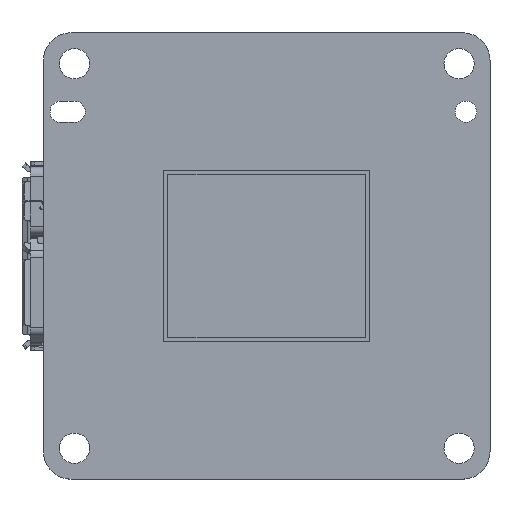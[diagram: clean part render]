
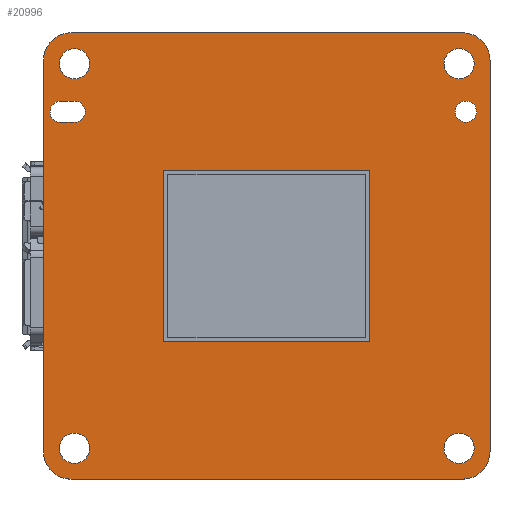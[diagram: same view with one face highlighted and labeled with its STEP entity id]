
A CAD part, top view. The second image highlights one B-rep face of the part: STEP entity #20996.
In plain terms, the highlighted planar face has unit normal (0, 0, 1).
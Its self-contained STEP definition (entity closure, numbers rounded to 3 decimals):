
#500=DIRECTION('',(-1.,0.,0.));
#501=VECTOR('',#500,28.5);
#502=CARTESIAN_POINT('',(36.596,32.5,1.6));
#503=LINE('',#502,#501);
#516=DIRECTION('',(0.,1.,0.));
#517=VECTOR('',#516,28.5);
#518=CARTESIAN_POINT('',(38.596,2.,1.6));
#519=LINE('',#518,#517);
#532=DIRECTION('',(1.,0.,0.));
#533=VECTOR('',#532,28.5);
#534=CARTESIAN_POINT('',(8.096,0.,1.6));
#535=LINE('',#534,#533);
#552=DIRECTION('',(0.,-1.,0.));
#553=VECTOR('',#552,28.5);
#554=CARTESIAN_POINT('',(6.096,30.5,1.6));
#555=LINE('',#554,#553);
#560=CARTESIAN_POINT('',(8.096,30.5,1.6));
#561=DIRECTION('',(0.,0.,-1.));
#562=DIRECTION('',(-1.,0.,0.));
#563=AXIS2_PLACEMENT_3D('',#560,#561,#562);
#565=CARTESIAN_POINT('',(36.596,30.5,1.6));
#566=DIRECTION('',(0.,0.,-1.));
#567=DIRECTION('',(0.,1.,0.));
#568=AXIS2_PLACEMENT_3D('',#565,#566,#567);
#570=CARTESIAN_POINT('',(36.596,2.,1.6));
#571=DIRECTION('',(0.,0.,-1.));
#572=DIRECTION('',(1.,0.,0.));
#573=AXIS2_PLACEMENT_3D('',#570,#571,#572);
#575=CARTESIAN_POINT('',(8.096,2.,1.6));
#576=DIRECTION('',(0.,0.,-1.));
#577=DIRECTION('',(0.,-1.,0.));
#578=AXIS2_PLACEMENT_3D('',#575,#576,#577);
#580=CARTESIAN_POINT('',(36.346,2.25,1.6));
#581=DIRECTION('',(0.,0.,1.));
#582=DIRECTION('',(-1.,0.,0.));
#583=AXIS2_PLACEMENT_3D('',#580,#581,#582);
#585=CARTESIAN_POINT('',(36.346,2.25,1.6));
#586=DIRECTION('',(0.,0.,1.));
#587=DIRECTION('',(1.,0.,0.));
#588=AXIS2_PLACEMENT_3D('',#585,#586,#587);
#590=CARTESIAN_POINT('',(8.346,30.25,1.6));
#591=DIRECTION('',(0.,0.,1.));
#592=DIRECTION('',(-1.,0.,0.));
#593=AXIS2_PLACEMENT_3D('',#590,#591,#592);
#595=CARTESIAN_POINT('',(8.346,30.25,1.6));
#596=DIRECTION('',(0.,0.,1.));
#597=DIRECTION('',(1.,0.,0.));
#598=AXIS2_PLACEMENT_3D('',#595,#596,#597);
#600=CARTESIAN_POINT('',(36.346,30.25,1.6));
#601=DIRECTION('',(0.,0.,1.));
#602=DIRECTION('',(-1.,0.,0.));
#603=AXIS2_PLACEMENT_3D('',#600,#601,#602);
#605=CARTESIAN_POINT('',(36.346,30.25,1.6));
#606=DIRECTION('',(0.,0.,1.));
#607=DIRECTION('',(1.,0.,0.));
#608=AXIS2_PLACEMENT_3D('',#605,#606,#607);
#610=CARTESIAN_POINT('',(36.846,26.75,1.6));
#611=DIRECTION('',(0.,0.,1.));
#612=DIRECTION('',(-1.,0.,0.));
#613=AXIS2_PLACEMENT_3D('',#610,#611,#612);
#615=CARTESIAN_POINT('',(36.846,26.75,1.6));
#616=DIRECTION('',(0.,0.,1.));
#617=DIRECTION('',(1.,0.,0.));
#618=AXIS2_PLACEMENT_3D('',#615,#616,#617);
#620=CARTESIAN_POINT('',(8.346,2.25,1.6));
#621=DIRECTION('',(0.,0.,1.));
#622=DIRECTION('',(-1.,0.,0.));
#623=AXIS2_PLACEMENT_3D('',#620,#621,#622);
#625=CARTESIAN_POINT('',(8.346,2.25,1.6));
#626=DIRECTION('',(0.,0.,1.));
#627=DIRECTION('',(1.,0.,0.));
#628=AXIS2_PLACEMENT_3D('',#625,#626,#627);
#630=CARTESIAN_POINT('',(7.346,26.75,1.6));
#631=DIRECTION('',(0.,0.,1.));
#632=DIRECTION('',(-0.114,0.993,0.));
#633=AXIS2_PLACEMENT_3D('',#630,#631,#632);
#635=CARTESIAN_POINT('',(8.346,26.75,1.6));
#636=DIRECTION('',(0.,0.,1.));
#637=DIRECTION('',(-0.114,-0.993,0.));
#638=AXIS2_PLACEMENT_3D('',#635,#636,#637);
#640=CARTESIAN_POINT('',(8.346,26.75,1.6));
#641=DIRECTION('',(0.,0.,1.));
#642=DIRECTION('',(1.,0.,0.));
#643=AXIS2_PLACEMENT_3D('',#640,#641,#642);
#645=DIRECTION('',(1.,0.,0.));
#646=VECTOR('',#645,14.75);
#647=CARTESIAN_POINT('',(14.971,22.375,1.6));
#648=LINE('',#647,#646);
#649=DIRECTION('',(0.,1.,0.));
#650=VECTOR('',#649,12.25);
#651=CARTESIAN_POINT('',(14.971,10.125,1.6));
#652=LINE('',#651,#650);
#653=DIRECTION('',(-1.,0.,0.));
#654=VECTOR('',#653,14.75);
#655=CARTESIAN_POINT('',(29.721,10.125,1.6));
#656=LINE('',#655,#654);
#657=DIRECTION('',(0.,-1.,0.));
#658=VECTOR('',#657,12.25);
#659=CARTESIAN_POINT('',(29.721,22.375,1.6));
#660=LINE('',#659,#658);
#705=DIRECTION('',(1.,0.,0.));
#706=VECTOR('',#705,1.);
#707=CARTESIAN_POINT('',(7.257,27.525,1.6));
#708=LINE('',#707,#706);
#717=DIRECTION('',(-1.,0.,0.));
#718=VECTOR('',#717,1.);
#719=CARTESIAN_POINT('',(8.257,25.975,1.6));
#720=LINE('',#719,#718);
#15816=CARTESIAN_POINT('',(7.246,2.25,1.6));
#15817=VERTEX_POINT('',#15816);
#15818=CARTESIAN_POINT('',(9.446,2.25,1.6));
#15819=VERTEX_POINT('',#15818);
#15820=CARTESIAN_POINT('',(35.246,2.25,1.6));
#15821=CARTESIAN_POINT('',(37.446,2.25,1.6));
#15822=VERTEX_POINT('',#15820);
#15823=VERTEX_POINT('',#15821);
#15824=CARTESIAN_POINT('',(7.246,30.25,1.6));
#15825=CARTESIAN_POINT('',(9.446,30.25,1.6));
#15826=VERTEX_POINT('',#15824);
#15827=VERTEX_POINT('',#15825);
#15828=CARTESIAN_POINT('',(35.246,30.25,1.6));
#15829=CARTESIAN_POINT('',(37.446,30.25,1.6));
#15830=VERTEX_POINT('',#15828);
#15831=VERTEX_POINT('',#15829);
#15832=CARTESIAN_POINT('',(36.071,26.75,1.6));
#15833=CARTESIAN_POINT('',(37.621,26.75,1.6));
#15834=VERTEX_POINT('',#15832);
#15835=VERTEX_POINT('',#15833);
#15836=CARTESIAN_POINT('',(6.096,30.5,1.6));
#15837=CARTESIAN_POINT('',(8.096,32.5,1.6));
#15838=VERTEX_POINT('',#15836);
#15839=VERTEX_POINT('',#15837);
#15840=CARTESIAN_POINT('',(36.596,32.5,1.6));
#15841=VERTEX_POINT('',#15840);
#15842=CARTESIAN_POINT('',(38.596,30.5,1.6));
#15843=VERTEX_POINT('',#15842);
#15844=CARTESIAN_POINT('',(38.596,2.,1.6));
#15845=VERTEX_POINT('',#15844);
#15846=CARTESIAN_POINT('',(36.596,0.,1.6));
#15847=VERTEX_POINT('',#15846);
#15848=CARTESIAN_POINT('',(8.096,0.,1.6));
#15849=VERTEX_POINT('',#15848);
#15850=CARTESIAN_POINT('',(6.096,2.,1.6));
#15851=VERTEX_POINT('',#15850);
#15852=CARTESIAN_POINT('',(7.257,27.525,1.6));
#15853=CARTESIAN_POINT('',(8.257,27.525,1.6));
#15854=VERTEX_POINT('',#15852);
#15855=VERTEX_POINT('',#15853);
#15856=CARTESIAN_POINT('',(7.257,25.975,1.6));
#15857=VERTEX_POINT('',#15856);
#15858=CARTESIAN_POINT('',(8.257,25.975,1.6));
#15859=VERTEX_POINT('',#15858);
#15860=CARTESIAN_POINT('',(9.126,26.75,1.6));
#15861=VERTEX_POINT('',#15860);
#20313=CARTESIAN_POINT('',(14.971,22.375,1.6));
#20314=CARTESIAN_POINT('',(29.721,22.375,1.6));
#20315=VERTEX_POINT('',#20313);
#20316=VERTEX_POINT('',#20314);
#20317=CARTESIAN_POINT('',(14.971,10.125,1.6));
#20318=VERTEX_POINT('',#20317);
#20319=CARTESIAN_POINT('',(29.721,10.125,1.6));
#20320=VERTEX_POINT('',#20319);
#20929=CARTESIAN_POINT('',(22.346,16.25,1.6));
#20930=DIRECTION('',(0.,0.,1.));
#20931=DIRECTION('',(1.,0.,0.));
#20932=AXIS2_PLACEMENT_3D('',#20929,#20930,#20931);
#20933=PLANE('',#20932);
#20934=ORIENTED_EDGE('',*,*,#20825,.T.);
#20935=ORIENTED_EDGE('',*,*,#20840,.F.);
#20936=ORIENTED_EDGE('',*,*,#20854,.T.);
#20937=ORIENTED_EDGE('',*,*,#20868,.F.);
#20938=ORIENTED_EDGE('',*,*,#20882,.T.);
#20939=ORIENTED_EDGE('',*,*,#20896,.F.);
#20940=ORIENTED_EDGE('',*,*,#20910,.T.);
#20941=ORIENTED_EDGE('',*,*,#20923,.F.);
#20942=EDGE_LOOP('',(#20934,#20935,#20936,#20937,#20938,#20939,#20940,#20941));
#20943=FACE_OUTER_BOUND('',#20942,.F.);
#20945=ORIENTED_EDGE('',*,*,#20944,.T.);
#20947=ORIENTED_EDGE('',*,*,#20946,.T.);
#20948=EDGE_LOOP('',(#20945,#20947));
#20949=FACE_BOUND('',#20948,.F.);
#20951=ORIENTED_EDGE('',*,*,#20950,.T.);
#20953=ORIENTED_EDGE('',*,*,#20952,.T.);
#20954=EDGE_LOOP('',(#20951,#20953));
#20955=FACE_BOUND('',#20954,.F.);
#20957=ORIENTED_EDGE('',*,*,#20956,.T.);
#20959=ORIENTED_EDGE('',*,*,#20958,.T.);
#20960=EDGE_LOOP('',(#20957,#20959));
#20961=FACE_BOUND('',#20960,.F.);
#20963=ORIENTED_EDGE('',*,*,#20962,.T.);
#20965=ORIENTED_EDGE('',*,*,#20964,.T.);
#20966=EDGE_LOOP('',(#20963,#20965));
#20967=FACE_BOUND('',#20966,.F.);
#20969=ORIENTED_EDGE('',*,*,#20968,.T.);
#20971=ORIENTED_EDGE('',*,*,#20970,.T.);
#20972=EDGE_LOOP('',(#20969,#20971));
#20973=FACE_BOUND('',#20972,.F.);
#20975=ORIENTED_EDGE('',*,*,#20974,.F.);
#20977=ORIENTED_EDGE('',*,*,#20976,.T.);
#20979=ORIENTED_EDGE('',*,*,#20978,.F.);
#20981=ORIENTED_EDGE('',*,*,#20980,.T.);
#20983=ORIENTED_EDGE('',*,*,#20982,.T.);
#20984=EDGE_LOOP('',(#20975,#20977,#20979,#20981,#20983));
#20985=FACE_BOUND('',#20984,.F.);
#20987=ORIENTED_EDGE('',*,*,#20986,.F.);
#20989=ORIENTED_EDGE('',*,*,#20988,.F.);
#20991=ORIENTED_EDGE('',*,*,#20990,.F.);
#20993=ORIENTED_EDGE('',*,*,#20992,.F.);
#20994=EDGE_LOOP('',(#20987,#20989,#20991,#20993));
#20995=FACE_BOUND('',#20994,.F.);
#20996=ADVANCED_FACE('',(#20943,#20949,#20955,#20961,#20967,#20973,#20985,
#20995),#20933,.T.);
#564=CIRCLE('',#563,2.);
#569=CIRCLE('',#568,2.);
#574=CIRCLE('',#573,2.);
#579=CIRCLE('',#578,2.);
#584=CIRCLE('',#583,1.1);
#589=CIRCLE('',#588,1.1);
#594=CIRCLE('',#593,1.1);
#599=CIRCLE('',#598,1.1);
#604=CIRCLE('',#603,1.1);
#609=CIRCLE('',#608,1.1);
#614=CIRCLE('',#613,0.775);
#619=CIRCLE('',#618,0.775);
#624=CIRCLE('',#623,1.1);
#629=CIRCLE('',#628,1.1);
#634=CIRCLE('',#633,0.78);
#639=CIRCLE('',#638,0.78);
#644=CIRCLE('',#643,0.78);
#20825=EDGE_CURVE('',#15838,#15839,#564,.T.);
#20840=EDGE_CURVE('',#15841,#15839,#503,.T.);
#20854=EDGE_CURVE('',#15841,#15843,#569,.T.);
#20868=EDGE_CURVE('',#15845,#15843,#519,.T.);
#20882=EDGE_CURVE('',#15845,#15847,#574,.T.);
#20896=EDGE_CURVE('',#15849,#15847,#535,.T.);
#20910=EDGE_CURVE('',#15849,#15851,#579,.T.);
#20923=EDGE_CURVE('',#15838,#15851,#555,.T.);
#20944=EDGE_CURVE('',#15822,#15823,#584,.T.);
#20946=EDGE_CURVE('',#15823,#15822,#589,.T.);
#20950=EDGE_CURVE('',#15826,#15827,#594,.T.);
#20952=EDGE_CURVE('',#15827,#15826,#599,.T.);
#20956=EDGE_CURVE('',#15830,#15831,#604,.T.);
#20958=EDGE_CURVE('',#15831,#15830,#609,.T.);
#20962=EDGE_CURVE('',#15834,#15835,#614,.T.);
#20964=EDGE_CURVE('',#15835,#15834,#619,.T.);
#20968=EDGE_CURVE('',#15817,#15819,#624,.T.);
#20970=EDGE_CURVE('',#15819,#15817,#629,.T.);
#20974=EDGE_CURVE('',#15854,#15855,#708,.T.);
#20976=EDGE_CURVE('',#15854,#15857,#634,.T.);
#20978=EDGE_CURVE('',#15859,#15857,#720,.T.);
#20980=EDGE_CURVE('',#15859,#15861,#639,.T.);
#20982=EDGE_CURVE('',#15861,#15855,#644,.T.);
#20986=EDGE_CURVE('',#20315,#20316,#648,.T.);
#20988=EDGE_CURVE('',#20318,#20315,#652,.T.);
#20990=EDGE_CURVE('',#20320,#20318,#656,.T.);
#20992=EDGE_CURVE('',#20316,#20320,#660,.T.);
